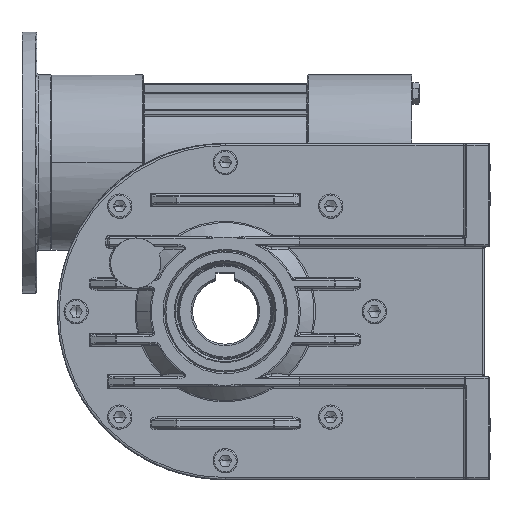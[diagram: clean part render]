
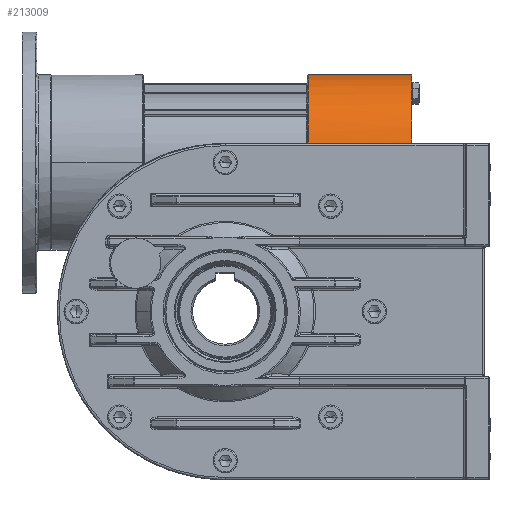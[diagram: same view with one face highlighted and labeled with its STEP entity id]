
A CAD part, top view. The second image highlights one B-rep face of the part: STEP entity #213009.
In plain terms, the highlighted cylindrical face has radius 47 mm (diameter 94 mm), a partial arc.
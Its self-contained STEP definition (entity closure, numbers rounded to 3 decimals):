
#27567 = VERTEX_POINT ( 'NONE', #201100 ) ;
#27604 = EDGE_CURVE ( 'NONE', #27567, #27606, #144995, .T. ) ;
#27606 = VERTEX_POINT ( 'NONE', #145161 ) ;
#61455 = EDGE_CURVE ( 'NONE', #27606, #61456, #182263, .T. ) ;
#61456 = VERTEX_POINT ( 'NONE', #182251 ) ;
#61459 = VERTEX_POINT ( 'NONE', #182383 ) ;
#61461 = EDGE_CURVE ( 'NONE', #27567, #61459, #182483, .T. ) ;
#80261 = CARTESIAN_POINT ( 'NONE',  ( 100., 127., 48.65 ) ) ;
#80267 = B_SPLINE_CURVE_WITH_KNOTS ( 'NONE', 3,
 ( #80261, #80511, #80509, #80507, #80505, #80503, #80501, #80499, #80497, #80495, #80493, #80491, #80489, #80487, #80486, #80485, #80484, #80483 ),
 .UNSPECIFIED., .F., .F.,
 ( 4, 2, 2, 2, 2, 2, 2, 2, 4 ),
 ( 0., 0.125, 0.25, 0.375, 0.5, 0.625, 0.75, 0.875, 1. ),
 .UNSPECIFIED. ) ;
#80273 = DIRECTION ( 'NONE',  ( 0., 0., -1. ) ) ;
#80275 = DIRECTION ( 'NONE',  ( 1., 0., 0. ) ) ;
#80277 = AXIS2_PLACEMENT_3D ( 'NONE', #80304, #80275, #80273 ) ;
#80279 = CARTESIAN_POINT ( 'NONE',  ( 100., 127., 48.65 ) ) ;
#80304 = CARTESIAN_POINT ( 'NONE',  ( 44., 80., 48.65 ) ) ;
#80305 = CYLINDRICAL_SURFACE ( 'NONE', #80277, 47. ) ;
#80306 = FACE_OUTER_BOUND ( 'NONE', #213258, .T. ) ;
#80483 = CARTESIAN_POINT ( 'NONE',  ( 100., 80., 95.65 ) ) ;
#80484 = CARTESIAN_POINT ( 'NONE',  ( 100., 83.076, 95.65 ) ) ;
#80485 = CARTESIAN_POINT ( 'NONE',  ( 100., 86.152, 95.347 ) ) ;
#80486 = CARTESIAN_POINT ( 'NONE',  ( 100., 92.186, 94.147 ) ) ;
#80487 = CARTESIAN_POINT ( 'NONE',  ( 100., 95.144, 93.25 ) ) ;
#80489 = CARTESIAN_POINT ( 'NONE',  ( 100., 100.828, 90.895 ) ) ;
#80491 = CARTESIAN_POINT ( 'NONE',  ( 100., 103.554, 89.438 ) ) ;
#80493 = CARTESIAN_POINT ( 'NONE',  ( 100., 108.67, 86.02 ) ) ;
#80495 = CARTESIAN_POINT ( 'NONE',  ( 100., 111.059, 84.059 ) ) ;
#80497 = CARTESIAN_POINT ( 'NONE',  ( 100., 115.409, 79.709 ) ) ;
#80499 = CARTESIAN_POINT ( 'NONE',  ( 100., 117.37, 77.32 ) ) ;
#80501 = CARTESIAN_POINT ( 'NONE',  ( 100., 120.788, 72.204 ) ) ;
#80503 = CARTESIAN_POINT ( 'NONE',  ( 100., 122.245, 69.478 ) ) ;
#80505 = CARTESIAN_POINT ( 'NONE',  ( 100., 124.6, 63.794 ) ) ;
#80507 = CARTESIAN_POINT ( 'NONE',  ( 100., 125.497, 60.836 ) ) ;
#80509 = CARTESIAN_POINT ( 'NONE',  ( 100., 126.697, 54.802 ) ) ;
#80511 = CARTESIAN_POINT ( 'NONE',  ( 100., 127., 51.726 ) ) ;
#82166 = B_SPLINE_CURVE_WITH_KNOTS ( 'NONE', 3,
 ( #82171, #82263, #82262, #82260, #82258, #82256, #82255, #82254, #82253, #82252, #82249, #82247, #82245, #82243, #82241, #82240, #82239, #82238 ),
 .UNSPECIFIED., .F., .F.,
 ( 4, 2, 2, 2, 2, 2, 2, 2, 4 ),
 ( 0., 0.125, 0.25, 0.375, 0.5, 0.625, 0.75, 0.875, 1. ),
 .UNSPECIFIED. ) ;
#82171 = CARTESIAN_POINT ( 'NONE',  ( 100., 80., 1.65 ) ) ;
#82238 = CARTESIAN_POINT ( 'NONE',  ( 100., 127., 48.65 ) ) ;
#82239 = CARTESIAN_POINT ( 'NONE',  ( 100., 127., 45.574 ) ) ;
#82240 = CARTESIAN_POINT ( 'NONE',  ( 100., 126.697, 42.498 ) ) ;
#82241 = CARTESIAN_POINT ( 'NONE',  ( 100., 125.497, 36.464 ) ) ;
#82243 = CARTESIAN_POINT ( 'NONE',  ( 100., 124.6, 33.506 ) ) ;
#82245 = CARTESIAN_POINT ( 'NONE',  ( 100., 122.245, 27.822 ) ) ;
#82247 = CARTESIAN_POINT ( 'NONE',  ( 100., 120.788, 25.096 ) ) ;
#82249 = CARTESIAN_POINT ( 'NONE',  ( 100., 117.37, 19.98 ) ) ;
#82252 = CARTESIAN_POINT ( 'NONE',  ( 100., 115.409, 17.591 ) ) ;
#82253 = CARTESIAN_POINT ( 'NONE',  ( 100., 111.059, 13.241 ) ) ;
#82254 = CARTESIAN_POINT ( 'NONE',  ( 100., 108.67, 11.28 ) ) ;
#82255 = CARTESIAN_POINT ( 'NONE',  ( 100., 103.554, 7.862 ) ) ;
#82256 = CARTESIAN_POINT ( 'NONE',  ( 100., 100.828, 6.405 ) ) ;
#82258 = CARTESIAN_POINT ( 'NONE',  ( 100., 95.144, 4.05 ) ) ;
#82260 = CARTESIAN_POINT ( 'NONE',  ( 100., 92.186, 3.153 ) ) ;
#82262 = CARTESIAN_POINT ( 'NONE',  ( 100., 86.152, 1.953 ) ) ;
#82263 = CARTESIAN_POINT ( 'NONE',  ( 100., 83.076, 1.65 ) ) ;
#144995 = CIRCLE ( 'NONE', #145168, 47. ) ;
#145006 = CARTESIAN_POINT ( 'NONE',  ( 44.5, 80., 48.65 ) ) ;
#145161 = CARTESIAN_POINT ( 'NONE',  ( 44.5, 80., 95.65 ) ) ;
#145164 = DIRECTION ( 'NONE',  ( 0., 0., -1. ) ) ;
#145166 = DIRECTION ( 'NONE',  ( 1., 0., 0. ) ) ;
#145168 = AXIS2_PLACEMENT_3D ( 'NONE', #145006, #145166, #145164 ) ;
#182251 = CARTESIAN_POINT ( 'NONE',  ( 100., 80., 95.65 ) ) ;
#182252 = DIRECTION ( 'NONE',  ( 1., 0., 0. ) ) ;
#182253 = VECTOR ( 'NONE', #182252, 1000. ) ;
#182254 = CARTESIAN_POINT ( 'NONE',  ( 44., 80., 95.65 ) ) ;
#182263 = LINE ( 'NONE', #182254, #182253 ) ;
#182383 = CARTESIAN_POINT ( 'NONE',  ( 100., 80., 1.65 ) ) ;
#182479 = DIRECTION ( 'NONE',  ( 1., 0., 0. ) ) ;
#182481 = VECTOR ( 'NONE', #182479, 1000. ) ;
#182482 = CARTESIAN_POINT ( 'NONE',  ( 44., 80., 1.65 ) ) ;
#182483 = LINE ( 'NONE', #182482, #182481 ) ;
#201100 = CARTESIAN_POINT ( 'NONE',  ( 44.5, 80., 1.65 ) ) ;
#213009 = ADVANCED_FACE ( 'NONE', ( #80306 ), #80305, .F. ) ;
#213010 = VERTEX_POINT ( 'NONE', #80279 ) ;
#213011 = EDGE_CURVE ( 'NONE', #213010, #61456, #80267, .T. ) ;
#213216 = ORIENTED_EDGE ( 'NONE', *, *, #213254, .T. ) ;
#213250 = ORIENTED_EDGE ( 'NONE', *, *, #61455, .F. ) ;
#213252 = ORIENTED_EDGE ( 'NONE', *, *, #27604, .F. ) ;
#213254 = EDGE_CURVE ( 'NONE', #61459, #213010, #82166, .T. ) ;
#213258 = EDGE_LOOP ( 'NONE', ( #213250, #213252, #213279, #213216, #213273 ) ) ;
#213273 = ORIENTED_EDGE ( 'NONE', *, *, #213011, .T. ) ;
#213279 = ORIENTED_EDGE ( 'NONE', *, *, #61461, .T. ) ;
